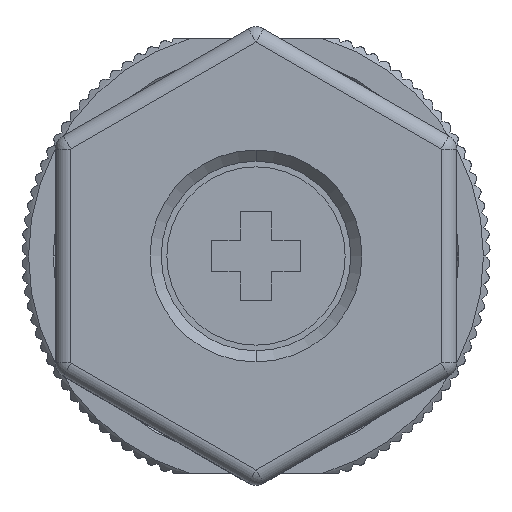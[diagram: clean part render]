
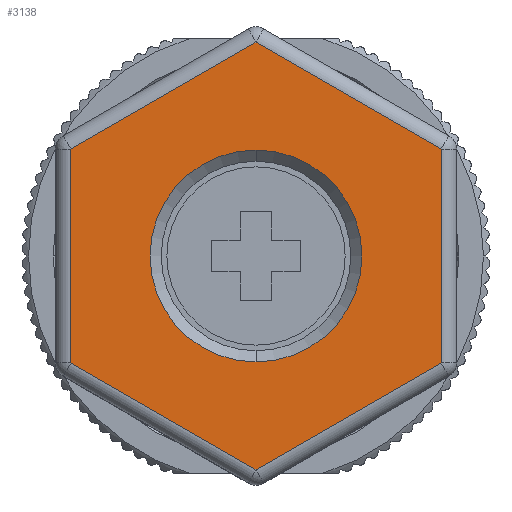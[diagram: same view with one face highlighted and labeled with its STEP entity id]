
A CAD part, left-side view. The second image highlights one B-rep face of the part: STEP entity #3138.
In plain terms, the highlighted planar face has unit normal (-1, 0, 0).
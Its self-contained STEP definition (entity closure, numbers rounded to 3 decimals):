
#99=DIRECTION('',(0.,-1.,0.));
#100=VECTOR('',#99,9.584);
#101=CARTESIAN_POINT('',(-55.,4.792,-8.3));
#102=LINE('',#101,#100);
#106=DIRECTION('',(0.,-0.5,-0.866));
#107=VECTOR('',#106,9.584);
#108=CARTESIAN_POINT('',(-55.,9.584,0.));
#109=LINE('',#108,#107);
#113=DIRECTION('',(0.,0.5,-0.866));
#114=VECTOR('',#113,9.584);
#115=CARTESIAN_POINT('',(-55.,4.792,8.3));
#116=LINE('',#115,#114);
#120=DIRECTION('',(0.,1.,0.));
#121=VECTOR('',#120,9.584);
#122=CARTESIAN_POINT('',(-55.,-4.792,8.3));
#123=LINE('',#122,#121);
#127=DIRECTION('',(0.,0.5,0.866));
#128=VECTOR('',#127,9.584);
#129=CARTESIAN_POINT('',(-55.,-9.584,0.));
#130=LINE('',#129,#128);
#134=DIRECTION('',(0.,-0.5,0.866));
#135=VECTOR('',#134,9.584);
#136=CARTESIAN_POINT('',(-55.,-4.792,-8.3));
#137=LINE('',#136,#135);
#141=CARTESIAN_POINT('',(-55.,0.,0.));
#142=DIRECTION('',(1.,0.,0.));
#143=DIRECTION('',(0.,-1.,0.));
#144=AXIS2_PLACEMENT_3D('',#141,#142,#143);
#149=CARTESIAN_POINT('',(-55.,0.,0.));
#150=DIRECTION('',(1.,0.,0.));
#151=DIRECTION('',(0.,1.,0.));
#152=AXIS2_PLACEMENT_3D('',#149,#150,#151);
#2890=CARTESIAN_POINT('',(-55.,4.792,-8.3));
#2891=CARTESIAN_POINT('',(-55.,-4.792,-8.3));
#2892=VERTEX_POINT('',#2890);
#2893=VERTEX_POINT('',#2891);
#2898=CARTESIAN_POINT('',(-55.,9.584,0.));
#2899=VERTEX_POINT('',#2898);
#2900=CARTESIAN_POINT('',(-55.,-4.792,8.3));
#2901=CARTESIAN_POINT('',(-55.,4.792,8.3));
#2902=VERTEX_POINT('',#2900);
#2903=VERTEX_POINT('',#2901);
#2908=CARTESIAN_POINT('',(-55.,-9.584,0.));
#2909=VERTEX_POINT('',#2908);
#2970=CARTESIAN_POINT('',(-55.,-4.75,0.));
#2971=CARTESIAN_POINT('',(-55.,4.75,0.));
#2972=VERTEX_POINT('',#2970);
#2973=VERTEX_POINT('',#2971);
#3115=CARTESIAN_POINT('',(-55.,0.,0.));
#3116=DIRECTION('',(1.,0.,0.));
#3117=DIRECTION('',(0.,0.,-1.));
#3118=AXIS2_PLACEMENT_3D('',#3115,#3116,#3117);
#3119=PLANE('',#3118);
#3121=ORIENTED_EDGE('',*,*,#3120,.F.);
#3122=ORIENTED_EDGE('',*,*,#3061,.F.);
#3123=ORIENTED_EDGE('',*,*,#3099,.F.);
#3125=ORIENTED_EDGE('',*,*,#3124,.F.);
#3127=ORIENTED_EDGE('',*,*,#3126,.F.);
#3129=ORIENTED_EDGE('',*,*,#3128,.F.);
#3130=EDGE_LOOP('',(#3121,#3122,#3123,#3125,#3127,#3129));
#3131=FACE_OUTER_BOUND('',#3130,.F.);
#3133=ORIENTED_EDGE('',*,*,#3132,.F.);
#3135=ORIENTED_EDGE('',*,*,#3134,.F.);
#3136=EDGE_LOOP('',(#3133,#3135));
#3137=FACE_BOUND('',#3136,.F.);
#145=CIRCLE('',#144,4.75);
#153=CIRCLE('',#152,4.75);
#3061=EDGE_CURVE('',#2899,#2892,#109,.T.);
#3099=EDGE_CURVE('',#2903,#2899,#116,.T.);
#3120=EDGE_CURVE('',#2892,#2893,#102,.T.);
#3124=EDGE_CURVE('',#2902,#2903,#123,.T.);
#3126=EDGE_CURVE('',#2909,#2902,#130,.T.);
#3128=EDGE_CURVE('',#2893,#2909,#137,.T.);
#3132=EDGE_CURVE('',#2972,#2973,#145,.T.);
#3134=EDGE_CURVE('',#2973,#2972,#153,.T.);
#3138=ADVANCED_FACE('',(#3131,#3137),#3119,.F.);
